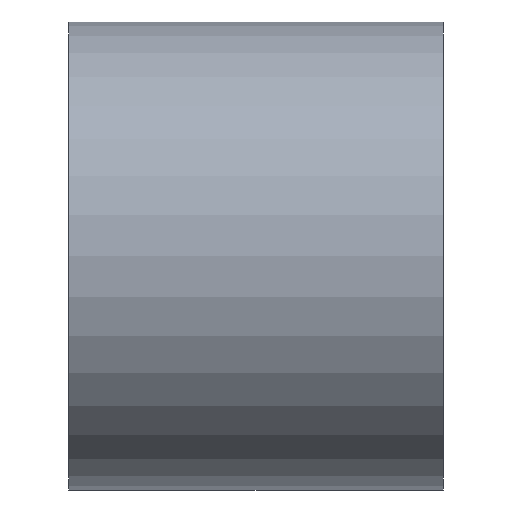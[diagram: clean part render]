
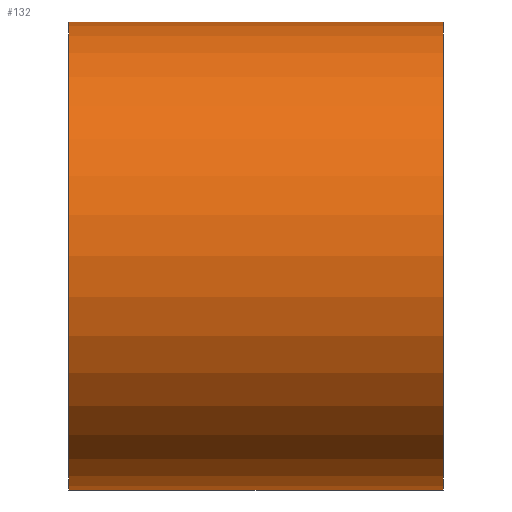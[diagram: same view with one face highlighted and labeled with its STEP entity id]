
A CAD part, front view. The second image highlights one B-rep face of the part: STEP entity #132.
In plain terms, the highlighted cylindrical face has radius 500 mm (diameter 1000 mm), a partial arc.
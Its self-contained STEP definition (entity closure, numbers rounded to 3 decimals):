
#132=ADVANCED_FACE('',(#260),#261,.T.);
#260=FACE_OUTER_BOUND('',#415,.T.);
#261=CYLINDRICAL_SURFACE('',#416,500.0);
#415=EDGE_LOOP('',(#739,#740,#741,#742));
#416=AXIS2_PLACEMENT_3D('',#743,#744,#745);
#739=ORIENTED_EDGE('',*,*,#827,.T.);
#740=ORIENTED_EDGE('',*,*,#968,.F.);
#741=ORIENTED_EDGE('',*,*,#829,.T.);
#742=ORIENTED_EDGE('',*,*,#969,.F.);
#743=CARTESIAN_POINT('',(0.0,0.0,0.0));
#744=DIRECTION('',(1.0,0.0,0.0));
#745=DIRECTION('',(0.0,0.0,-1.0));
#827=EDGE_CURVE('',#973,#974,#975,.T.);
#829=EDGE_CURVE('',#978,#976,#979,.T.);
#968=EDGE_CURVE('',#978,#974,#1186,.T.);
#969=EDGE_CURVE('',#973,#976,#1187,.T.);
#973=VERTEX_POINT('',#1191);
#974=VERTEX_POINT('',#1192);
#975=LINE('',#1193,#1194);
#976=VERTEX_POINT('',#1195);
#978=VERTEX_POINT('',#1197);
#979=LINE('',#1198,#1199);
#1186=CIRCLE('',#1440,500.0);
#1187=CIRCLE('',#1441,500.0);
#1191=CARTESIAN_POINT('',(-400.0,0.0,-500.0));
#1192=CARTESIAN_POINT('',(400.0,0.0,-500.0));
#1193=CARTESIAN_POINT('',(0.0,0.,-500.0));
#1194=VECTOR('',#1444,1.0);
#1195=CARTESIAN_POINT('',(-400.0,0.,500.0));
#1197=CARTESIAN_POINT('',(400.0,0.,500.0));
#1198=CARTESIAN_POINT('',(0.0,0.,500.0));
#1199=VECTOR('',#1448,1.0);
#1440=AXIS2_PLACEMENT_3D('',#1690,#1691,#1692);
#1441=AXIS2_PLACEMENT_3D('',#1693,#1694,#1695);
#1444=DIRECTION('',(1.0,0.0,0.0));
#1448=DIRECTION('',(-1.0,-0.0,-0.0));
#1690=CARTESIAN_POINT('',(400.0,0.0,0.0));
#1691=DIRECTION('',(1.0,0.0,0.0));
#1692=DIRECTION('',(0.0,0.0,-1.0));
#1693=CARTESIAN_POINT('',(-400.0,0.0,0.0));
#1694=DIRECTION('',(-1.0,0.0,0.0));
#1695=DIRECTION('',(0.0,0.0,-1.0));
